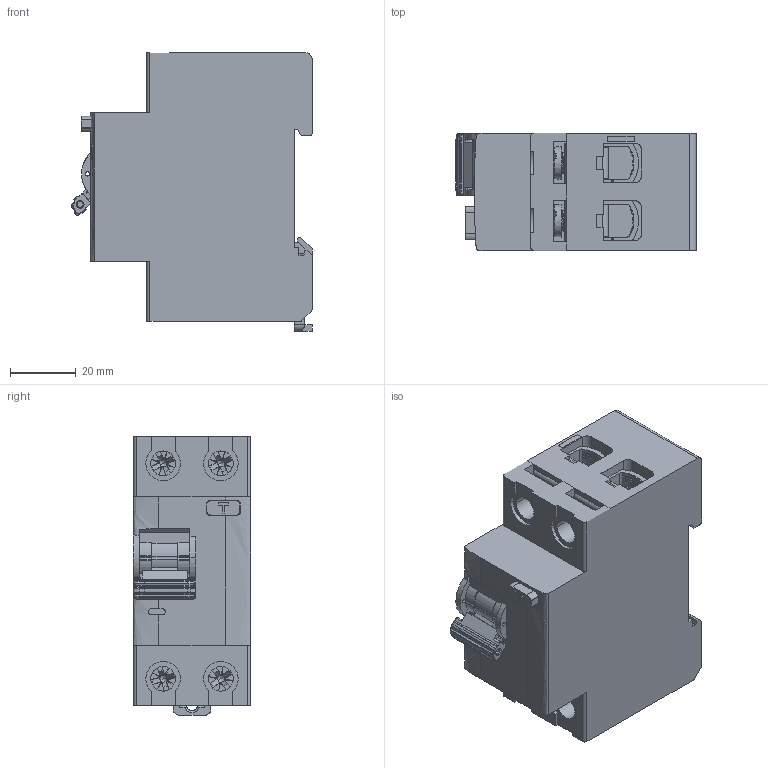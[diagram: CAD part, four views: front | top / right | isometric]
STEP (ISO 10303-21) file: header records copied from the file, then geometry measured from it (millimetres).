
FILE_DESCRIPTION (( 'STEP AP214' ), '1' );
FILE_NAME ('RCCB 2P.STEP', '2026-07-06T10:53:32', ( '' ), ( '' ), 'SwSTEP 2.0', 'SolidWorks 2022', '' );
FILE_SCHEMA (( 'AUTOMOTIVE_DESIGN' ));
Length unit declared in the file: millimetre
Products named in the file (1): RCCB 2P
Bounding box: 72.89 x 35.5 x 84.5 mm (x, y, z)
Volume: 153983.9 mm3; surface area: 29186.7 mm2
Topology: 1 solids, 35 shells, 2360 faces, 6582 edges, 4311 vertices
Faces by surface type: plane 1219, cylinder 845, bspline 176, torus 82, cone 38
Entity records: 136533 total; most frequent: CARTESIAN_POINT 53430, ORIENTED_EDGE 13148, DIRECTION 11399, EDGE_CURVE 6574, VERTEX_POINT 4311, AXIS2_PLACEMENT_3D 3865, LINE 3669, VECTOR 3669
